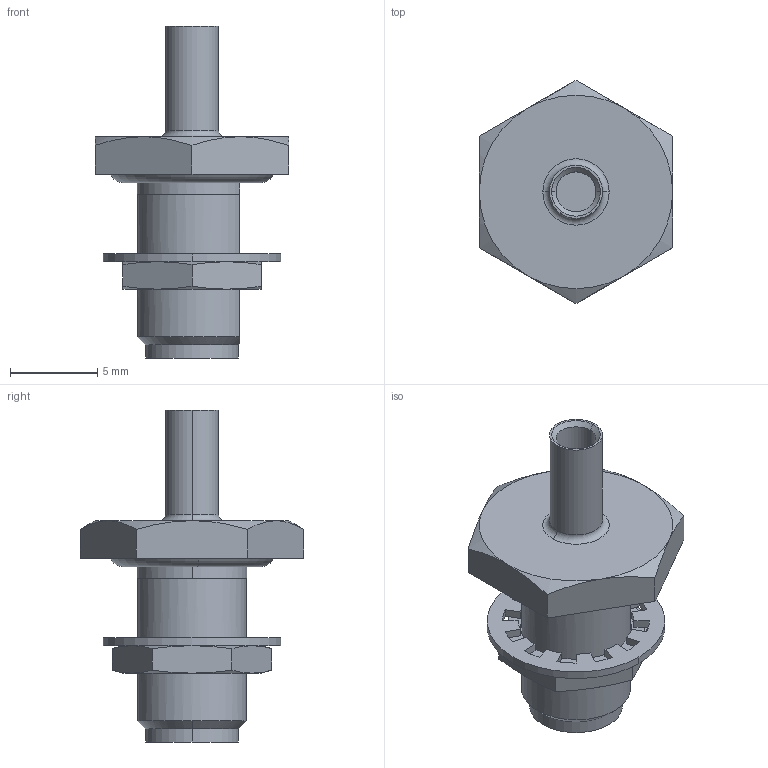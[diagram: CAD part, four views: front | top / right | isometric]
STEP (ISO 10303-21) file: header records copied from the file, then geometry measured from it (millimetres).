
FILE_DESCRIPTION (( 'STEP AP203' ), '1' );
FILE_NAME ('2946-6012.STEP', '2016-11-14T16:16:34', ( '' ), ( '' ), 'SwSTEP 2.0', 'SolidWorks 2016', '' );
FILE_SCHEMA (( 'CONFIG_CONTROL_DESIGN' ));
Length unit declared in the file: inch
Products named in the file (1): 2946-6012
Bounding box: 11.1 x 12.82 x 19.05 mm (x, y, z)
Volume: 594.5 mm3; surface area: 1037.3 mm2
Topology: 4 solids, 4 shells, 125 faces, 308 edges, 194 vertices
Faces by surface type: plane 50, cylinder 41, cone 28, torus 6
Entity records: 3844 total; most frequent: CARTESIAN_POINT 770, DIRECTION 645, ORIENTED_EDGE 616, EDGE_CURVE 308, AXIS2_PLACEMENT_3D 249, VERTEX_POINT 194, VECTOR 147, LINE 147
